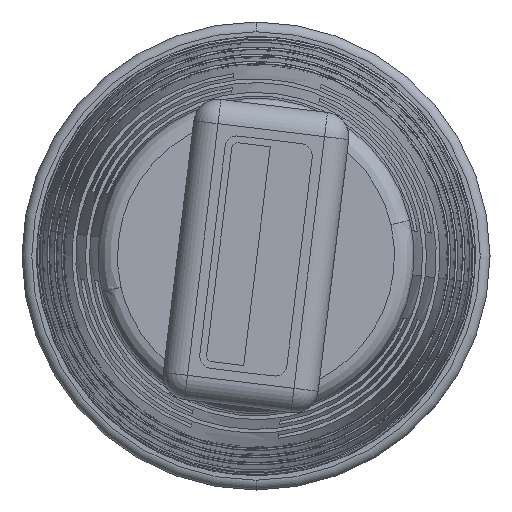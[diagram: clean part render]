
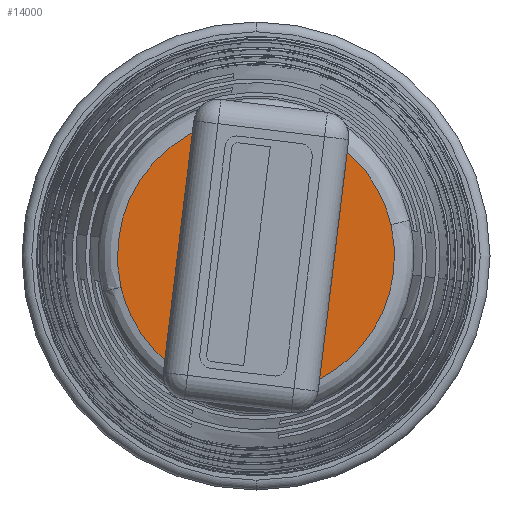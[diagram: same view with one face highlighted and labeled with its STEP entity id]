
A CAD part, left-side view. The second image highlights one B-rep face of the part: STEP entity #14000.
In plain terms, the highlighted planar face has unit normal (-1, 0, 0) as drawn and (0, 0, 1) by its records, which use the part's own axes.
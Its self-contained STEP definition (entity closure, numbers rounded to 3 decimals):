
#564 = ORIENTED_EDGE ( 'NONE', *, *, #1414, .F. ) ;
#565 = ORIENTED_EDGE ( 'NONE', *, *, #21150, .F. ) ;
#566 = ORIENTED_EDGE ( 'NONE', *, *, #21245, .F. ) ;
#567 = ORIENTED_EDGE ( 'NONE', *, *, #1415, .F. ) ;
#1008 = VERTEX_POINT ( 'NONE', #2503 ) ;
#1082 = VERTEX_POINT ( 'NONE', #2577 ) ;
#1095 = VERTEX_POINT ( 'NONE', #2590 ) ;
#1414 = EDGE_CURVE ( 'NONE', #1082, #1095, #19397, .T. ) ;
#1415 = EDGE_CURVE ( 'NONE', #18163, #1008, #9479, .T. ) ;
#2066 = EDGE_LOOP ( 'NONE', ( #566, #567 ) ) ;
#2400 =( BOUNDED_CURVE ( )  B_SPLINE_CURVE ( 2, ( #13307, #13316, #13322, #13323, #13324 ),
 .UNSPECIFIED., .F., .F. ) 
 B_SPLINE_CURVE_WITH_KNOTS ( ( 3, 2, 3 ),
 ( 0., 0.333, 0.5 ),
 .UNSPECIFIED. ) 
 CURVE ( )  GEOMETRIC_REPRESENTATION_ITEM ( )  RATIONAL_B_SPLINE_CURVE ( ( 1., 0.5, 1., 0.75, 0.75 ) ) 
 REPRESENTATION_ITEM ( '' )  );
#2503 = CARTESIAN_POINT ( 'NONE',  ( -14.094, 8.841, 65.55 ) ) ;
#2577 = CARTESIAN_POINT ( 'NONE',  ( -4.919, 11.277, 65.55 ) ) ;
#2590 = CARTESIAN_POINT ( 'NONE',  ( -9.919, 11.277, 65.55 ) ) ;
#4875 = EDGE_LOOP ( 'NONE', ( #564, #565 ) ) ;
#9112 = AXIS2_PLACEMENT_3D ( 'NONE', #11497, #11498, #11499 ) ;
#9479 =( BOUNDED_CURVE ( )  B_SPLINE_CURVE ( 2, ( #14899, #14900, #14904, #14905, #14906 ),
 .UNSPECIFIED., .F., .F. ) 
 B_SPLINE_CURVE_WITH_KNOTS ( ( 3, 2, 3 ),
 ( 0.5, 0.667, 1. ),
 .UNSPECIFIED. ) 
 CURVE ( )  GEOMETRIC_REPRESENTATION_ITEM ( )  RATIONAL_B_SPLINE_CURVE ( ( 0.75, 0.75, 1., 0.5, 1. ) ) 
 REPRESENTATION_ITEM ( '' )  );
#10227 = CARTESIAN_POINT ( 'NONE',  ( -0.744, 13.714, 65.55 ) ) ;
#11497 = CARTESIAN_POINT ( 'NONE',  ( -7.419, 11.277, 65.55 ) ) ;
#11498 = DIRECTION ( 'NONE',  ( 0., 0., 1. ) ) ;
#11499 = DIRECTION ( 'NONE',  ( 1., 0., 0. ) ) ;
#11942 = CIRCLE ( 'NONE', #9112, 2.5 ) ;
#13307 = CARTESIAN_POINT ( 'NONE',  ( -14.094, 8.841, 65.55 ) ) ;
#13316 = CARTESIAN_POINT ( 'NONE',  ( -18.314, 20.402, 65.55 ) ) ;
#13322 = CARTESIAN_POINT ( 'NONE',  ( -6.192, 18.276, 65.55 ) ) ;
#13323 = CARTESIAN_POINT ( 'NONE',  ( -2.151, 17.568, 65.55 ) ) ;
#13324 = CARTESIAN_POINT ( 'NONE',  ( -0.744, 13.714, 65.55 ) ) ;
#14000 = ADVANCED_FACE ( 'NONE', ( #17484, #17511 ), #20494, .T. ) ;
#14899 = CARTESIAN_POINT ( 'NONE',  ( -0.744, 13.714, 65.55 ) ) ;
#14900 = CARTESIAN_POINT ( 'NONE',  ( 0.663, 9.86, 65.55 ) ) ;
#14901 = CARTESIAN_POINT ( 'NONE',  ( -7.419, 11.277, 65.55 ) ) ;
#14902 = DIRECTION ( 'NONE',  ( 0., 0., 1. ) ) ;
#14903 = DIRECTION ( 'NONE',  ( 1., 0., 0. ) ) ;
#14904 = CARTESIAN_POINT ( 'NONE',  ( -1.971, 6.715, 65.55 ) ) ;
#14905 = CARTESIAN_POINT ( 'NONE',  ( -9.874, -2.721, 65.55 ) ) ;
#14906 = CARTESIAN_POINT ( 'NONE',  ( -14.094, 8.841, 65.55 ) ) ;
#15223 = AXIS2_PLACEMENT_3D ( 'NONE', #14901, #14902, #14903 ) ;
#15585 = AXIS2_PLACEMENT_3D ( 'NONE', #20493, #20496, #20497 ) ;
#17484 = FACE_BOUND ( 'NONE', #4875, .T. ) ;
#17511 = FACE_OUTER_BOUND ( 'NONE', #2066, .T. ) ;
#18163 = VERTEX_POINT ( 'NONE', #10227 ) ;
#19397 = CIRCLE ( 'NONE', #15223, 2.5 ) ;
#20493 = CARTESIAN_POINT ( 'NONE',  ( -18.314, 20.402, 65.55 ) ) ;
#20494 = PLANE ( 'NONE',  #15585 ) ;
#20496 = DIRECTION ( 'NONE',  ( 0., 0., 1. ) ) ;
#20497 = DIRECTION ( 'NONE',  ( 0., -1., 0. ) ) ;
#21150 = EDGE_CURVE ( 'NONE', #1095, #1082, #11942, .T. ) ;
#21245 = EDGE_CURVE ( 'NONE', #1008, #18163, #2400, .T. ) ;
